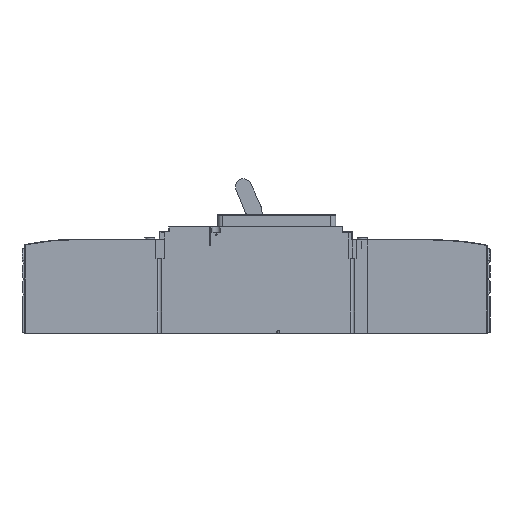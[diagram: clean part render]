
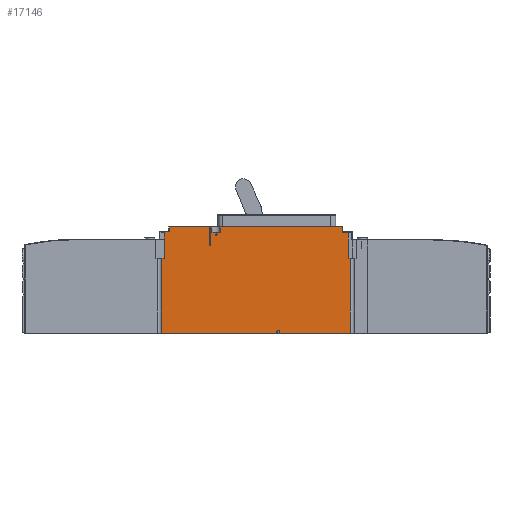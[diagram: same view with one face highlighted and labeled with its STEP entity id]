
A CAD part, left-side view. The second image highlights one B-rep face of the part: STEP entity #17146.
In plain terms, the highlighted planar face has unit normal (-1, 0, 0).
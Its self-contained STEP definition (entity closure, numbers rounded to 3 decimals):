
#107=DIRECTION('',(0.,-1.,0.));
#108=VECTOR('',#107,72.696);
#109=CARTESIAN_POINT('',(0.001,217.649,0.));
#110=LINE('',#109,#108);
#141=DIRECTION('',(0.,-1.,0.));
#142=VECTOR('',#141,118.704);
#143=CARTESIAN_POINT('',(0.,339.853,0.));
#144=LINE('',#143,#142);
#2040=DIRECTION('',(0.,0.,-1.));
#2041=VECTOR('',#2040,27.5);
#2042=CARTESIAN_POINT('',(0.,337.386,105.001));
#2043=LINE('',#2042,#2041);
#2110=DIRECTION('',(0.,1.,0.));
#2111=VECTOR('',#2110,5.3);
#2112=CARTESIAN_POINT('',(0.,332.086,105.001));
#2113=LINE('',#2112,#2111);
#3695=DIRECTION('',(0.,0.,-1.));
#3696=VECTOR('',#3695,5.099);
#3697=CARTESIAN_POINT('',(0.,332.086,110.1));
#3698=LINE('',#3697,#3696);
#3699=DIRECTION('',(0.,-1.,0.));
#3700=VECTOR('',#3699,41.001);
#3701=CARTESIAN_POINT('',(0.,332.086,110.1));
#3702=LINE('',#3701,#3700);
#3703=DIRECTION('',(0.,0.,-1.));
#3704=VECTOR('',#3703,19.7);
#3705=CARTESIAN_POINT('',(0.,291.086,110.1));
#3706=LINE('',#3705,#3704);
#3707=DIRECTION('',(0.,1.,0.));
#3708=VECTOR('',#3707,1.278);
#3709=CARTESIAN_POINT('',(0.,289.807,90.4));
#3710=LINE('',#3709,#3708);
#3711=DIRECTION('',(0.,0.,-1.));
#3712=VECTOR('',#3711,19.7);
#3713=CARTESIAN_POINT('',(0.,289.807,110.1));
#3714=LINE('',#3713,#3712);
#3715=DIRECTION('',(0.,-1.,0.));
#3716=VECTOR('',#3715,1.8);
#3717=CARTESIAN_POINT('',(0.,289.807,110.1));
#3718=LINE('',#3717,#3716);
#3719=DIRECTION('',(0.,0.,-1.));
#3720=VECTOR('',#3719,5.7);
#3721=CARTESIAN_POINT('',(0.,288.007,110.1));
#3722=LINE('',#3721,#3720);
#3723=DIRECTION('',(0.,1.,0.));
#3724=VECTOR('',#3723,8.7);
#3725=CARTESIAN_POINT('',(0.,279.307,104.4));
#3726=LINE('',#3725,#3724);
#3727=DIRECTION('',(0.,0.,-1.));
#3728=VECTOR('',#3727,5.7);
#3729=CARTESIAN_POINT('',(0.,279.307,110.1));
#3730=LINE('',#3729,#3728);
#3731=DIRECTION('',(0.,-1.,0.));
#3732=VECTOR('',#3731,126.066);
#3733=CARTESIAN_POINT('',(0.,279.307,110.1));
#3734=LINE('',#3733,#3732);
#3735=DIRECTION('',(0.,0.,-1.));
#3736=VECTOR('',#3735,5.399);
#3737=CARTESIAN_POINT('',(0.001,153.241,110.1));
#3738=LINE('',#3737,#3736);
#3739=DIRECTION('',(0.,0.,1.));
#3740=VECTOR('',#3739,7.2);
#3741=CARTESIAN_POINT('',(0.002,146.839,97.501));
#3742=LINE('',#3741,#3740);
#3743=DIRECTION('',(0.,-1.,0.));
#3744=VECTOR('',#3743,0.074);
#3745=CARTESIAN_POINT('',(0.002,146.913,97.501));
#3746=LINE('',#3745,#3744);
#3747=DIRECTION('',(0.,0.,1.));
#3748=VECTOR('',#3747,20.);
#3749=CARTESIAN_POINT('',(0.002,146.913,77.501));
#3750=LINE('',#3749,#3748);
#3751=DIRECTION('',(0.,-1.,0.));
#3752=VECTOR('',#3751,1.96);
#3753=CARTESIAN_POINT('',(0.002,146.913,77.501));
#3754=LINE('',#3753,#3752);
#3755=DIRECTION('',(0.,0.,1.));
#3756=VECTOR('',#3755,1.15);
#3757=CARTESIAN_POINT('',(0.001,217.649,0.));
#3758=LINE('',#3757,#3756);
#3759=DIRECTION('',(0.,0.,1.));
#3760=VECTOR('',#3759,1.15);
#3761=CARTESIAN_POINT('',(0.001,221.149,0.));
#3762=LINE('',#3761,#3760);
#3763=DIRECTION('',(0.,0.,1.));
#3764=VECTOR('',#3763,77.501);
#3765=CARTESIAN_POINT('',(0.,339.853,0.));
#3766=LINE('',#3765,#3764);
#3767=DIRECTION('',(0.,-1.,0.));
#3768=VECTOR('',#3767,2.468);
#3769=CARTESIAN_POINT('',(0.,339.853,77.501));
#3770=LINE('',#3769,#3768);
#3774=CARTESIAN_POINT('',(0.,291.086,110.1));
#4016=CARTESIAN_POINT('',(0.002,146.839,104.701));
#4934=DIRECTION('',(0.,1.,0.));
#4935=VECTOR('',#4934,6.402);
#4936=CARTESIAN_POINT('',(0.002,146.839,104.701));
#4937=LINE('',#4936,#4935);
#7589=DIRECTION('',(0.,0.,1.));
#7590=VECTOR('',#7589,77.501);
#7591=CARTESIAN_POINT('',(0.002,144.953,0.));
#7592=LINE('',#7591,#7590);
#7601=CARTESIAN_POINT('',(0.001,219.399,1.15));
#7602=DIRECTION('',(1.,0.,0.));
#7603=DIRECTION('',(0.,1.,0.));
#7604=AXIS2_PLACEMENT_3D('',#7601,#7602,#7603);
#10473=CARTESIAN_POINT('',(0.,291.086,90.4));
#10474=VERTEX_POINT('',#10473);
#10475=CARTESIAN_POINT('',(0.,289.807,90.4));
#10477=VERTEX_POINT('',#10475);
#10501=CARTESIAN_POINT('',(0.,339.853,0.));
#10503=VERTEX_POINT('',#10501);
#10505=CARTESIAN_POINT('',(0.002,144.953,0.));
#10506=VERTEX_POINT('',#10505);
#10559=CARTESIAN_POINT('',(0.002,146.839,
97.501));
#10561=VERTEX_POINT('',#10559);
#10585=CARTESIAN_POINT('',(0.,339.853,77.501));
#10586=VERTEX_POINT('',#10585);
#10587=CARTESIAN_POINT('',(0.002,146.913,
97.501));
#10588=VERTEX_POINT('',#10587);
#10589=CARTESIAN_POINT('',(0.,337.386,
77.501));
#10590=VERTEX_POINT('',#10589);
#10591=CARTESIAN_POINT('',(0.002,146.913,
77.501));
#10592=CARTESIAN_POINT('',(0.002,144.953,
77.501));
#10593=VERTEX_POINT('',#10591);
#10594=VERTEX_POINT('',#10592);
#10599=CARTESIAN_POINT('',(0.,337.386,
105.001));
#10600=VERTEX_POINT('',#10599);
#11113=CARTESIAN_POINT('',(0.,279.307,104.4));
#11114=CARTESIAN_POINT('',(0.,288.007,104.4));
#11115=VERTEX_POINT('',#11113);
#11116=VERTEX_POINT('',#11114);
#11399=CARTESIAN_POINT('',(0.001,217.649,0.));
#11400=VERTEX_POINT('',#11399);
#11401=CARTESIAN_POINT('',(0.001,221.149,0.));
#11403=VERTEX_POINT('',#11401);
#11433=CARTESIAN_POINT('',(0.001,221.149,1.15));
#11435=VERTEX_POINT('',#11433);
#11437=CARTESIAN_POINT('',(0.001,217.649,1.15));
#11439=VERTEX_POINT('',#11437);
#12337=VERTEX_POINT('',#4016);
#12339=CARTESIAN_POINT('',(0.,288.007,110.1));
#12341=VERTEX_POINT('',#12339);
#12342=CARTESIAN_POINT('',(0.,289.807,110.1));
#12343=VERTEX_POINT('',#12342);
#12347=VERTEX_POINT('',#3774);
#12348=CARTESIAN_POINT('',(0.,279.307,110.1));
#12350=VERTEX_POINT('',#12348);
#12512=CARTESIAN_POINT('',(0.,332.086,
110.1));
#12513=CARTESIAN_POINT('',(0.,332.086,
105.001));
#12514=VERTEX_POINT('',#12512);
#12515=VERTEX_POINT('',#12513);
#12528=CARTESIAN_POINT('',(0.001,153.241,
110.1));
#12529=CARTESIAN_POINT('',(0.001,153.241,
104.701));
#12530=VERTEX_POINT('',#12528);
#12531=VERTEX_POINT('',#12529);
#17096=CARTESIAN_POINT('',(0.,339.853,0.));
#17097=DIRECTION('',(-1.,0.,0.));
#17098=DIRECTION('',(0.,-1.,0.));
#17099=AXIS2_PLACEMENT_3D('',#17096,#17097,#17098);
#17100=PLANE('',#17099);
#17101=ORIENTED_EDGE('',*,*,#15579,.F.);
#17102=ORIENTED_EDGE('',*,*,#15608,.T.);
#17104=ORIENTED_EDGE('',*,*,#17103,.T.);
#17106=ORIENTED_EDGE('',*,*,#17105,.F.);
#17108=ORIENTED_EDGE('',*,*,#17107,.F.);
#17110=ORIENTED_EDGE('',*,*,#17109,.T.);
#17112=ORIENTED_EDGE('',*,*,#17111,.T.);
#17114=ORIENTED_EDGE('',*,*,#17113,.F.);
#17116=ORIENTED_EDGE('',*,*,#17115,.F.);
#17118=ORIENTED_EDGE('',*,*,#17117,.T.);
#17119=ORIENTED_EDGE('',*,*,#17086,.T.);
#17121=ORIENTED_EDGE('',*,*,#17120,.F.);
#17123=ORIENTED_EDGE('',*,*,#17122,.F.);
#17125=ORIENTED_EDGE('',*,*,#17124,.F.);
#17127=ORIENTED_EDGE('',*,*,#17126,.F.);
#17128=ORIENTED_EDGE('',*,*,#13704,.T.);
#17130=ORIENTED_EDGE('',*,*,#17129,.F.);
#17131=ORIENTED_EDGE('',*,*,#12949,.F.);
#17133=ORIENTED_EDGE('',*,*,#17132,.T.);
#17135=ORIENTED_EDGE('',*,*,#17134,.F.);
#17137=ORIENTED_EDGE('',*,*,#17136,.F.);
#17138=ORIENTED_EDGE('',*,*,#12977,.F.);
#17140=ORIENTED_EDGE('',*,*,#17139,.T.);
#17141=ORIENTED_EDGE('',*,*,#13648,.T.);
#17142=ORIENTED_EDGE('',*,*,#15219,.F.);
#17143=ORIENTED_EDGE('',*,*,#15276,.F.);
#17144=EDGE_LOOP('',(#17101,#17102,#17104,#17106,#17108,#17110,#17112,#17114,
#17116,#17118,#17119,#17121,#17123,#17125,#17127,#17128,#17130,#17131,#17133,
#17135,#17137,#17138,#17140,#17141,#17142,#17143));
#17145=FACE_OUTER_BOUND('',#17144,.F.);
#17146=ADVANCED_FACE('',(#17145),#17100,.T.);
#7605=CIRCLE('',#7604,1.75);
#12949=EDGE_CURVE('',#11400,#10506,#110,.T.);
#12977=EDGE_CURVE('',#10503,#11403,#144,.T.);
#13648=EDGE_CURVE('',#10586,#10590,#3770,.T.);
#13704=EDGE_CURVE('',#10593,#10594,#3754,.T.);
#15219=EDGE_CURVE('',#10600,#10590,#2043,.T.);
#15276=EDGE_CURVE('',#12515,#10600,#2113,.T.);
#15579=EDGE_CURVE('',#12514,#12515,#3698,.T.);
#15608=EDGE_CURVE('',#12514,#12347,#3702,.T.);
#17086=EDGE_CURVE('',#12530,#12531,#3738,.T.);
#17103=EDGE_CURVE('',#12347,#10474,#3706,.T.);
#17105=EDGE_CURVE('',#10477,#10474,#3710,.T.);
#17107=EDGE_CURVE('',#12343,#10477,#3714,.T.);
#17109=EDGE_CURVE('',#12343,#12341,#3718,.T.);
#17111=EDGE_CURVE('',#12341,#11116,#3722,.T.);
#17113=EDGE_CURVE('',#11115,#11116,#3726,.T.);
#17115=EDGE_CURVE('',#12350,#11115,#3730,.T.);
#17117=EDGE_CURVE('',#12350,#12530,#3734,.T.);
#17120=EDGE_CURVE('',#12337,#12531,#4937,.T.);
#17122=EDGE_CURVE('',#10561,#12337,#3742,.T.);
#17124=EDGE_CURVE('',#10588,#10561,#3746,.T.);
#17126=EDGE_CURVE('',#10593,#10588,#3750,.T.);
#17129=EDGE_CURVE('',#10506,#10594,#7592,.T.);
#17132=EDGE_CURVE('',#11400,#11439,#3758,.T.);
#17134=EDGE_CURVE('',#11435,#11439,#7605,.T.);
#17136=EDGE_CURVE('',#11403,#11435,#3762,.T.);
#17139=EDGE_CURVE('',#10503,#10586,#3766,.T.);
